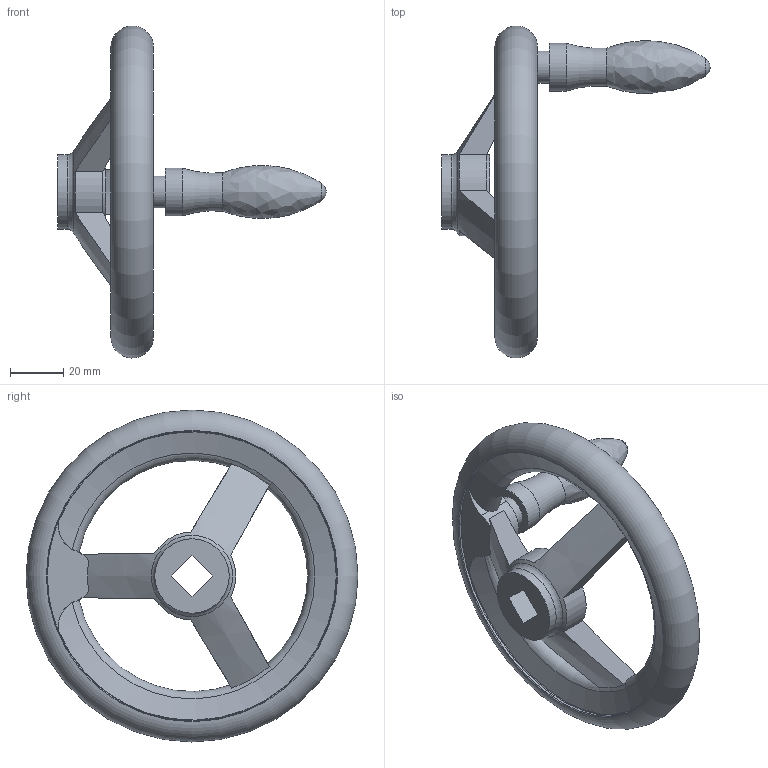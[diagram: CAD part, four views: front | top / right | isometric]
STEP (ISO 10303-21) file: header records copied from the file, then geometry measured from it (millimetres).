
FILE_DESCRIPTION( ( 'STEP AP203' ), '1' );
FILE_NAME( 'C:/Temp/Ganter_Step_05_03_2020/data/1_3/din_950/din_950_v/din_950_v_d/Handwheel DIN 950-GG-125-V11-D.stp', '2020-03-05T10:31:38', ( 'License CC BY-ND 4.0' ), ( 'CADENAS' ), ' ', 'PARTsolutions', ' ' );
FILE_SCHEMA( ( 'CONFIG_CONTROL_DESIGN' ) );
Length unit declared in the file: millimetre
Products named in the file (1): _Handwheel DIN 950-GG-125-V11-D
Bounding box: 101 x 124.98 x 124.98 mm (x, y, z)
Volume: 106912.4 mm3; surface area: 30167.9 mm2
Topology: 1 solids, 1 shells, 48 faces, 136 edges, 87 vertices
Faces by surface type: plane 15, cylinder 14, torus 13, cone 4, sphere 1, bspline 1
Full cylindrical faces by diameter (mm): 12 x1, 18 x1, 28 x2, 109 x2
Entity records: 1795 total; most frequent: CARTESIAN_POINT 650, ORIENTED_EDGE 222, DIRECTION 212, EDGE_CURVE 111, AXIS2_PLACEMENT_3D 94, VERTEX_POINT 82, EDGE_LOOP 71, FACE_OUTER_BOUND 63
